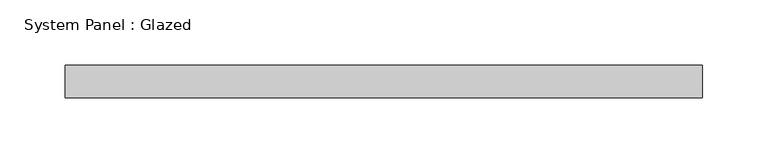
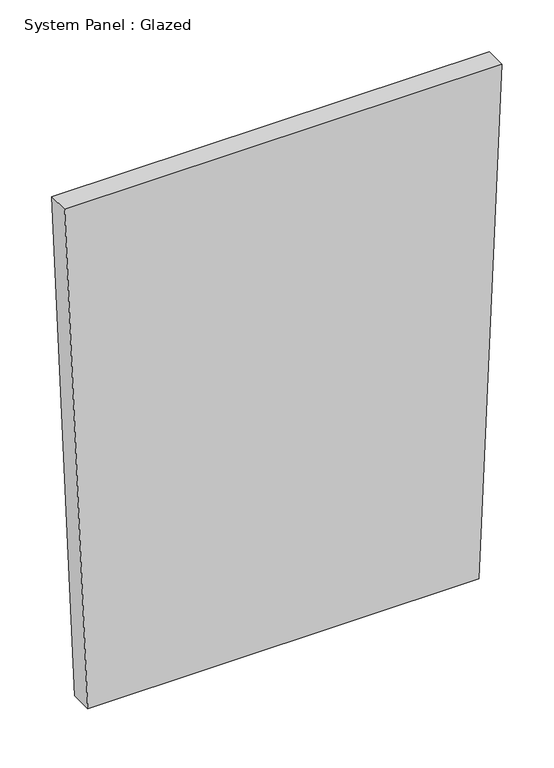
"""IFC4 building model written with IfcOpenShell, lengths in millimetres: plate geometry, System Panel : Glazed."""

from ifc_helpers import new_model, si_unit, frame, origin, place, context, project, spatial, polyline, outline, extrude, source, transform, mapped, element, save


def system_panel_glazed_fc79af4e(model_context):
    return source(origin(), model_context, "Body", "SweptSolid", [
        extrude(outline(polyline([(0.0, -219.1014895), (0.0, 219.1014895), (599.443222, 244.9437717), (599.443222, -244.9437717), (0.0, -219.1014895)])), frame((0.0, 24.5, 0.0), z_axis=(0.0, 1.0, 0.0), x_axis=(0.0, 0.0, 1.0)), (0.0, 0.0, 1.0), 25.0),
    ])


if __name__ == "__main__":
    model = new_model("IFC4")
    model_context = context("Model", 3, world=origin())
    ifc_project = project(units=[si_unit("LENGTHUNIT", "METRE", prefix="MILLI")], contexts=[model_context])
    site = spatial("IfcSite", under=ifc_project)
    building = spatial("IfcBuilding", under=site)
    placement = place(None, origin())
    system_panel_glazed_shape = system_panel_glazed_fc79af4e(model_context)
    element("IfcPlate", 1, ObjectType="System Panel : Glazed", at=placement, inside=building, context=model_context, shape_type="MappedRepresentation", body=[
        mapped(system_panel_glazed_shape, transform((0.0, 0.0, 0.0), x_axis=(1.0, 0.0, 0.0), y_axis=(0.0, 1.0, 0.0), z_axis=(0.0, 0.0, 1.0))),
    ])
    save(model, "model.ifc")
